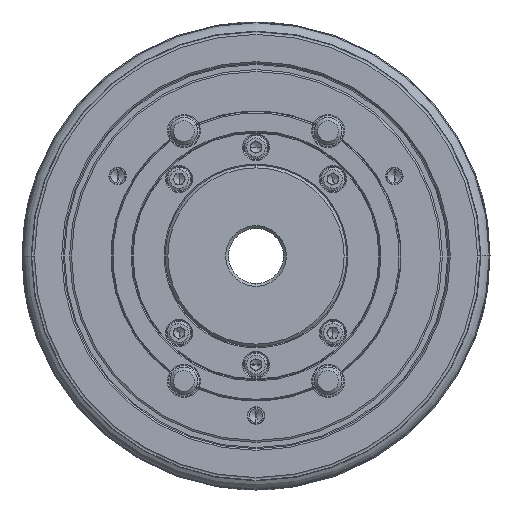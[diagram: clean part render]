
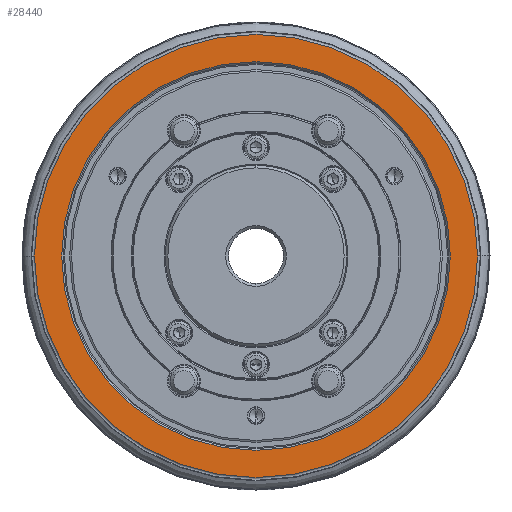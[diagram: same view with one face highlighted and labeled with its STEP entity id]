
A CAD part, left-side view. The second image highlights one B-rep face of the part: STEP entity #28440.
In plain terms, the highlighted planar face has unit normal (-1, 0, 0) as drawn and (0, 0, -1) by its records, which use the part's own axes.
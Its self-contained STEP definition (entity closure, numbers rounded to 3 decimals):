
#991 = DIRECTION ( 'NONE',  ( 0., 1., 0. ) ) ;
#3333 = CIRCLE ( 'NONE', #56039, 70.6 ) ;
#3649 = EDGE_CURVE ( 'NONE', #72802, #43615, #22699, .T. ) ;
#4767 = ORIENTED_EDGE ( 'NONE', *, *, #3649, .T. ) ;
#10247 = ORIENTED_EDGE ( 'NONE', *, *, #53757, .F. ) ;
#12369 = DIRECTION ( 'NONE',  ( -1., 0., 0. ) ) ;
#13121 = CARTESIAN_POINT ( 'NONE',  ( 70.6, 0., -81. ) ) ;
#20358 = VERTEX_POINT ( 'NONE', #36563 ) ;
#22699 = CIRCLE ( 'NONE', #55329, 70.6 ) ;
#23368 = FACE_BOUND ( 'NONE', #33221, .T. ) ;
#23565 = CARTESIAN_POINT ( 'NONE',  ( 0., 0., -81. ) ) ;
#23821 = VERTEX_POINT ( 'NONE', #66866 ) ;
#24116 = PLANE ( 'NONE',  #45678 ) ;
#24267 = CIRCLE ( 'NONE', #29318, 80.5 ) ;
#26810 = DIRECTION ( 'NONE',  ( 0., 0., 1. ) ) ;
#27224 = DIRECTION ( 'NONE',  ( 0., 1., 0. ) ) ;
#28258 = CARTESIAN_POINT ( 'NONE',  ( 0., 0., -81. ) ) ;
#28440 = ADVANCED_FACE ( 'NONE', ( #53606, #23368 ), #24116, .T. ) ;
#28779 = ORIENTED_EDGE ( 'NONE', *, *, #49618, .T. ) ;
#29318 = AXIS2_PLACEMENT_3D ( 'NONE', #30853, #54803, #991 ) ;
#30853 = CARTESIAN_POINT ( 'NONE',  ( 0., 0., -81. ) ) ;
#33221 = EDGE_LOOP ( 'NONE', ( #4767, #28779 ) ) ;
#34554 = DIRECTION ( 'NONE',  ( 1., 0., 0. ) ) ;
#36563 = CARTESIAN_POINT ( 'NONE',  ( 0., 80.5, -81. ) ) ;
#43615 = VERTEX_POINT ( 'NONE', #47852 ) ;
#45678 = AXIS2_PLACEMENT_3D ( 'NONE', #13121, #47329, #12369 ) ;
#46324 = DIRECTION ( 'NONE',  ( 0., 0., 1. ) ) ;
#47329 = DIRECTION ( 'NONE',  ( 0., 0., -1. ) ) ;
#47852 = CARTESIAN_POINT ( 'NONE',  ( 70.6, 0., -81. ) ) ;
#49618 = EDGE_CURVE ( 'NONE', #43615, #72802, #3333, .T. ) ;
#50669 = DIRECTION ( 'NONE',  ( 1., 0., 0. ) ) ;
#53606 = FACE_OUTER_BOUND ( 'NONE', #61050, .T. ) ;
#53757 = EDGE_CURVE ( 'NONE', #23821, #20358, #65104, .T. ) ;
#54560 = CARTESIAN_POINT ( 'NONE',  ( -70.6, 0., -81. ) ) ;
#54803 = DIRECTION ( 'NONE',  ( 0., 0., 1. ) ) ;
#55329 = AXIS2_PLACEMENT_3D ( 'NONE', #23565, #58524, #34554 ) ;
#56039 = AXIS2_PLACEMENT_3D ( 'NONE', #28258, #46324, #50669 ) ;
#58520 = EDGE_CURVE ( 'NONE', #20358, #23821, #24267, .T. ) ;
#58524 = DIRECTION ( 'NONE',  ( 0., 0., 1. ) ) ;
#61050 = EDGE_LOOP ( 'NONE', ( #65443, #10247 ) ) ;
#62183 = CARTESIAN_POINT ( 'NONE',  ( 0., 0., -81. ) ) ;
#62584 = AXIS2_PLACEMENT_3D ( 'NONE', #62183, #26810, #27224 ) ;
#65104 = CIRCLE ( 'NONE', #62584, 80.5 ) ;
#65443 = ORIENTED_EDGE ( 'NONE', *, *, #58520, .F. ) ;
#66866 = CARTESIAN_POINT ( 'NONE',  ( 0., -80.5, -81. ) ) ;
#72802 = VERTEX_POINT ( 'NONE', #54560 ) ;
